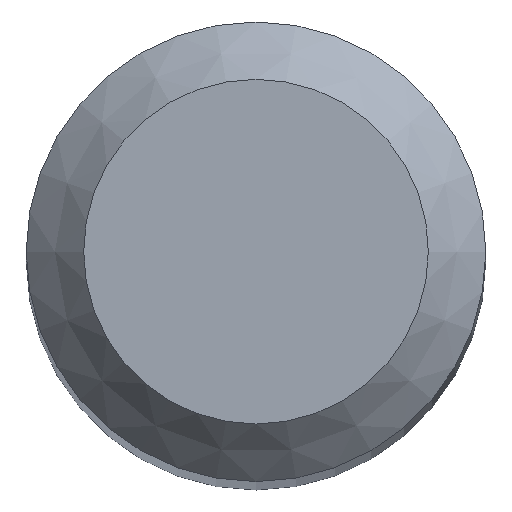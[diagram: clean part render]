
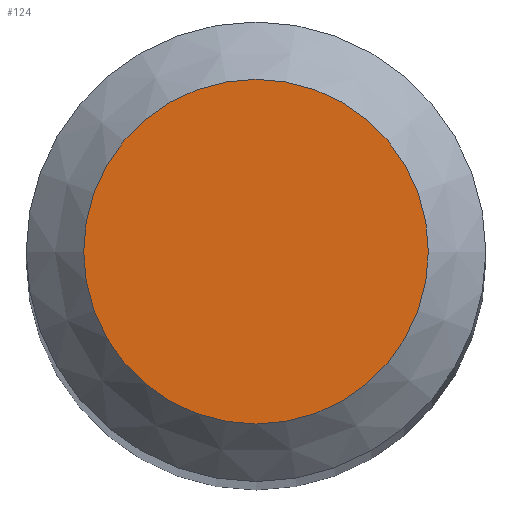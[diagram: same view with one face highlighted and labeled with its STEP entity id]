
A CAD part, top view. The second image highlights one B-rep face of the part: STEP entity #124.
In plain terms, the highlighted planar face has unit normal (0, 0, 1).
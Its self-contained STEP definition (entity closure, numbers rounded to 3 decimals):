
#108=CARTESIAN_POINT('',(1.5,0.0,49.0));
#109=DIRECTION('',(0.0,0.0,1.0));
#110=DIRECTION('',(1.0,0.0,0.0));
#111=AXIS2_PLACEMENT_3D('',#108,#109,#110);
#112=PLANE('',#111);
#113=CARTESIAN_POINT('',(-1.5,0.0,49.0));
#114=VERTEX_POINT('',#113);
#115=CARTESIAN_POINT('',(0.0,0.0,49.0));
#116=DIRECTION('',(0.0,0.0,-1.0));
#117=DIRECTION('',(-1.0,0.0,0.0));
#118=AXIS2_PLACEMENT_3D('',#115,#116,#117);
#119=CIRCLE('',#118,1.5);
#120=EDGE_CURVE('',#114,#114,#119,.T.);
#121=ORIENTED_EDGE('',*,*,#120,.F.);
#122=EDGE_LOOP('',(#121));
#123=FACE_OUTER_BOUND('',#122,.T.);
#124=ADVANCED_FACE('',(#123),#112,.T.);
